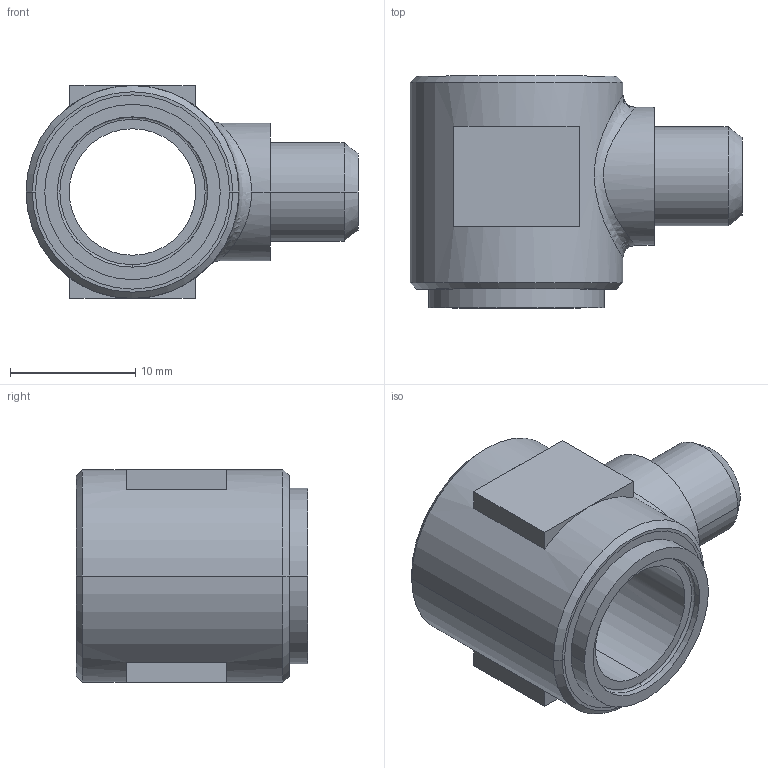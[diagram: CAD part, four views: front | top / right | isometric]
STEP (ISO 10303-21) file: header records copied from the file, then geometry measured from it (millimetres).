
FILE_DESCRIPTION((''),'2;1');
FILE_NAME('101301.stp','2007-10-30T15:43:23',(''),(''),'AutoCAD STEP 2000i','AutoCAD 2000i',', , ');
FILE_SCHEMA(('CONFIG_CONTROL_DESIGN'));
Length unit declared in the file: millimetre
Products named in the file (2): 101301.0; 1094#0
Assembly tree (1 placements, depth 2):
  101301.0
    1094#0
Bounding box: 26.5 x 18.5 x 17 mm (x, y, z)
Volume: 3149.3 mm3; surface area: 2266.5 mm2
Topology: 1 solids, 1 shells, 54 faces, 125 edges, 79 vertices
Faces by surface type: plane 21, cylinder 16, cone 12, bspline 5
Entity records: 2018 total; most frequent: CARTESIAN_POINT 650, DIRECTION 281, ORIENTED_EDGE 250, EDGE_CURVE 125, AXIS2_PLACEMENT_3D 114, VERTEX_POINT 79, EDGE_LOOP 64, CIRCLE 63
